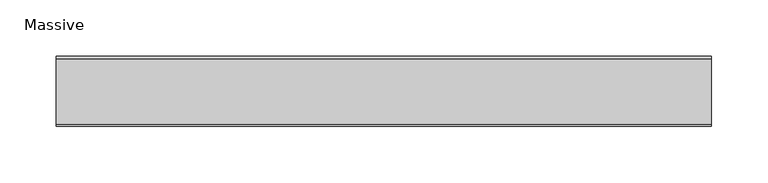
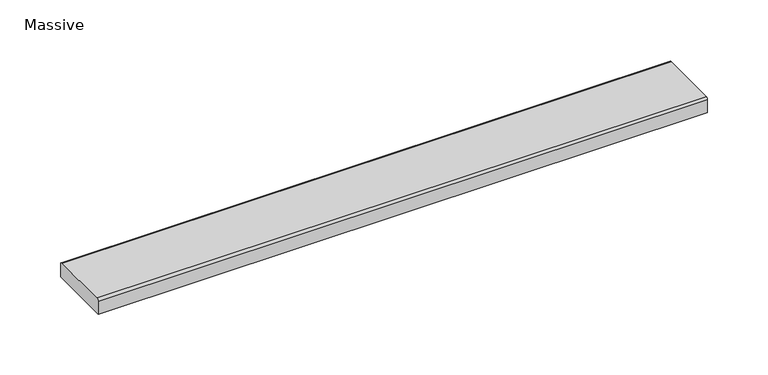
"""IFC4 building model written with IfcOpenShell, lengths in millimetres: sanitary terminal geometry, ZZZ_do not use_PF_ST_UN_grating for ShowerDrain C INT_ACO : Massive."""

import ifcopenshell
import ifcopenshell.guid

model = None  # the IFC model being written
_history = None  # IfcOwnerHistory: only IFC2X3 demands one
_inside = {}  # id of a spatial element -> (the spatial element, [elements in it])
_under = {}  # id of a project, library or spatial element -> (it, [spatial elements below it])
_declared = {}  # id of a project -> (the project, [libraries it declares])
_typed = {}  # id of a type object -> (the type object, [elements of that type])
_made_of = {}  # id of a material, layer set ... -> (it, [elements and type objects made of it])


def new_model(schema):
    """Start an empty IFC model of exactly this schema.

    Asked for "IFC4X3", IfcOpenShell would pick the latest addendum, in which some entities
    have other attributes; the version numbers below select the first issue.
    IFC2X3 requires an IfcOwnerHistory on every rooted entity: one is made here for all.
    """
    global model, _history
    if schema == "IFC4X3":
        model = ifcopenshell.file(schema_version=(4, 3, 0, 0))
    else:
        model = ifcopenshell.file(schema=schema)
    _inside.clear()
    _under.clear()
    _declared.clear()
    _typed.clear()
    _made_of.clear()
    _history = None
    if model.schema == "IFC2X3":
        org = make("IfcOrganization", Name="unknown")
        user = make(
            "IfcPersonAndOrganization",
            ThePerson=make("IfcPerson", FamilyName="unknown"),
            TheOrganization=org,
        )
        app = make(
            "IfcApplication",
            ApplicationDeveloper=org,
            Version="unknown",
            ApplicationFullName="unknown",
            ApplicationIdentifier="unknown",
        )
        _history = make(
            "IfcOwnerHistory",
            OwningUser=user,
            OwningApplication=app,
            ChangeAction="ADDED",
            CreationDate=0,
        )
    return model


def make(cls, **values):
    """One entity of the class cls with the attributes given. An attribute that is None is left unset."""
    return model.create_entity(
        cls, **{name: value for name, value in values.items() if value is not None}
    )


def rooted(cls, **values):
    """An entity with a GlobalId (a new one), such as an element, a storey or a relation."""
    return make(cls, GlobalId=ifcopenshell.guid.new(), OwnerHistory=_history, **values)


def si_unit(unit_type, name, prefix=None):
    """IfcSIUnit, for example si_unit("LENGTHUNIT", "METRE", prefix="MILLI")."""
    return make("IfcSIUnit", UnitType=unit_type, Prefix=prefix, Name=name)


def assignment(units):
    """IfcUnitAssignment: the units of a project."""
    return None if units is None else make("IfcUnitAssignment", Units=units)


def point(xyz):
    """IfcCartesianPoint."""
    return None if xyz is None else make("IfcCartesianPoint", Coordinates=xyz)


def direction(xyz):
    """IfcDirection."""
    return None if xyz is None else make("IfcDirection", DirectionRatios=xyz)


def frame(location, z_axis=None, x_axis=None):
    """IfcAxis2Placement3D, a coordinate frame: its origin and axes. An axis left out is left unset."""
    return make(
        "IfcAxis2Placement3D",
        Location=point(location),
        Axis=direction(z_axis),
        RefDirection=direction(x_axis),
    )


def frame_2d(location, x_axis=None):
    """IfcAxis2Placement2D, a coordinate frame in the plane: its origin and x axis."""
    return make(
        "IfcAxis2Placement2D", Location=point(location), RefDirection=direction(x_axis)
    )


def origin():
    """The frame at (0, 0, 0) with its axes left unset."""
    return frame((0.0, 0.0, 0.0))


def place(relative_to, where):
    """IfcLocalPlacement: puts the frame where relative to a parent placement (None: the world)."""
    return make(
        "IfcLocalPlacement", PlacementRelTo=relative_to, RelativePlacement=where
    )


def context(
    kind, dimensions, precision=None, world=None, true_north=None, identifier=None
):
    """IfcGeometricRepresentationContext, for example the 3D "Model" context."""
    return make(
        "IfcGeometricRepresentationContext",
        ContextIdentifier=identifier,
        ContextType=kind,
        CoordinateSpaceDimension=dimensions,
        Precision=precision,
        WorldCoordinateSystem=world,
        TrueNorth=true_north,
    )


def project(units=None, contexts=None):
    """IfcProject with its units and contexts."""
    return rooted(
        "IfcProject",
        Name="project",
        RepresentationContexts=contexts,
        UnitsInContext=assignment(units),
    )


def spatial(cls, under=None, at=None, **own):
    """A site, building, storey or space (cls), placed at a placement, below another one or the project."""
    s = rooted(cls, ObjectPlacement=at, **own)
    if under is not None:
        _under.setdefault(under.id(), (under, []))[1].append(s)
    return s


def polyline(points):
    """IfcPolyline through the points."""
    return make("IfcPolyline", Points=[point(p) for p in points])


def circle_curve(where, radius):
    """IfcCircle in the frame where."""
    return make("IfcCircle", Position=where, Radius=radius)


def trimmed(basis, trim1, trim2, sense, master):
    """IfcTrimmedCurve: the piece of a basis curve between two trims."""
    return make(
        "IfcTrimmedCurve",
        BasisCurve=basis,
        Trim1=trim1,
        Trim2=trim2,
        SenseAgreement=sense,
        MasterRepresentation=master,
    )


def segment(curve, same_sense, transition):
    """IfcCompositeCurveSegment."""
    return make(
        "IfcCompositeCurveSegment",
        Transition=transition,
        SameSense=same_sense,
        ParentCurve=curve,
    )


def composite_curve(segments, self_intersect=None):
    """IfcCompositeCurve: segments joined end to end."""
    return make("IfcCompositeCurve", Segments=segments, SelfIntersect=self_intersect)


def outline(outer, holes=None, kind="AREA"):
    """IfcArbitraryClosedProfileDef: a profile drawn as a closed curve; with holes, ...WithVoids."""
    if holes is None:
        return make("IfcArbitraryClosedProfileDef", ProfileType=kind, OuterCurve=outer)
    return make(
        "IfcArbitraryProfileDefWithVoids",
        ProfileType=kind,
        OuterCurve=outer,
        InnerCurves=holes,
    )


def extrude(swept, where, along, depth):
    """IfcExtrudedAreaSolid: the profile swept, set in the frame where, extruded along a direction by depth."""
    return make(
        "IfcExtrudedAreaSolid",
        SweptArea=swept,
        Position=where,
        ExtrudedDirection=direction(along),
        Depth=depth,
    )


def shape(context_of_items, identifier, shape_type, items):
    """IfcShapeRepresentation: the items that make up one representation, for example the "Body"."""
    return make(
        "IfcShapeRepresentation",
        ContextOfItems=context_of_items,
        RepresentationIdentifier=identifier,
        RepresentationType=shape_type,
        Items=items,
    )


def source(mapping_origin, context_of_items, identifier, shape_type, items):
    """IfcRepresentationMap: a shape defined once, which mapped items show again and again."""
    return make(
        "IfcRepresentationMap",
        MappingOrigin=mapping_origin,
        MappedRepresentation=shape(context_of_items, identifier, shape_type, items),
    )


def transform(
    local_origin,
    x_axis=None,
    y_axis=None,
    z_axis=None,
    scale=None,
    scale2=None,
    scale3=None,
    uniform=True,
):
    """IfcCartesianTransformationOperator3D, or its non-uniform kind. x_axis, y_axis, z_axis: its Axis1, 2, 3."""
    if uniform:
        return make(
            "IfcCartesianTransformationOperator3D",
            Axis1=direction(x_axis),
            Axis2=direction(y_axis),
            LocalOrigin=point(local_origin),
            Scale=scale,
            Axis3=direction(z_axis),
        )
    return make(
        "IfcCartesianTransformationOperator3DnonUniform",
        Axis1=direction(x_axis),
        Axis2=direction(y_axis),
        LocalOrigin=point(local_origin),
        Scale=scale,
        Axis3=direction(z_axis),
        Scale2=scale2,
        Scale3=scale3,
    )


def mapped(mapping_source, mapping_target):
    """IfcMappedItem: shows the shape of a source again, moved by a transform."""
    return make(
        "IfcMappedItem", MappingSource=mapping_source, MappingTarget=mapping_target
    )


def made_of(thing, what):
    """Note that an element or type object is made of a material, layer set ...; save() writes the relation."""
    if what is not None:
        _made_of.setdefault(what.id(), (what, []))[1].append(thing)
    return thing


def element(
    cls,
    number,
    at=None,
    inside=None,
    cuts=None,
    type_object=None,
    material=None,
    context=None,
    identifier="Body",
    shape_type=None,
    held_by="IfcProductDefinitionShape",
    body=None,
    shapes=None,
    **own,
):
    """One element of the class cls, such as IfcWall. Its Tag is "e" and its number.

    at: its placement. inside: the storey or other place that contains it. cuts: it is an
    opening in that element (IfcRelVoidsElement). A single representation is given by context,
    identifier, shape_type and body (its items); several are given by shapes. held_by: the class
    of the entity that holds the representations. save() writes the other relations.
    """
    e = rooted(cls, Tag="e%d" % number, ObjectPlacement=at, **own)
    if body is not None:
        shapes = [shape(context, identifier, shape_type, body)]
    if shapes is not None:
        e.Representation = make(held_by, Representations=shapes)
    if inside is not None:
        _inside.setdefault(inside.id(), (inside, []))[1].append(e)
    if cuts is not None:
        rooted(
            "IfcRelVoidsElement", RelatingBuildingElement=cuts, RelatedOpeningElement=e
        )
    if type_object is not None:
        _typed.setdefault(type_object.id(), (type_object, []))[1].append(e)
    return made_of(e, material)


def aggregate(whole, parts):
    """IfcRelAggregates: a whole, such as a stair, and the parts it consists of."""
    return rooted("IfcRelAggregates", RelatingObject=whole, RelatedObjects=parts)


def save(model, path):
    """Write the relations noted so far, then the file.

    IfcRelAggregates (storeys below a building ...), IfcRelContainedInSpatialStructure (elements
    in a storey), IfcRelDefinesByType, IfcRelAssociatesMaterial and IfcRelDeclares: one each for
    every whole, place, type object, material and project.
    """
    for whole, parts in _under.values():
        aggregate(whole, parts)
    for where, things in _inside.values():
        rooted(
            "IfcRelContainedInSpatialStructure",
            RelatedElements=things,
            RelatingStructure=where,
        )
    for kind, things in _typed.values():
        rooted("IfcRelDefinesByType", RelatedObjects=things, RelatingType=kind)
    for what, things in _made_of.values():
        rooted("IfcRelAssociatesMaterial", RelatedObjects=things, RelatingMaterial=what)
    for by, libraries in _declared.values():
        rooted("IfcRelDeclares", RelatingContext=by, RelatedDefinitions=libraries)
    model.write(path)


def massive_920ba84a(model_context):
    return source(origin(), model_context, "Body", "SweptSolid", [
        extrude(outline(composite_curve([segment(polyline([(31.0, -15.0), (-31.0, -15.0), (-31.0, -1.977849)]), True, "CONTINUOUS"), segment(trimmed(circle_curve(frame_2d((-29.022151, -1.977849)), 1.977849), [point((-31.0, -1.977849))], [point((-29.022151, 0.0))], False, "CARTESIAN"), True, "CONTINUOUS"), segment(polyline([(-29.022151, 0.0), (29.022151, 0.0)]), True, "CONTINUOUS"), segment(trimmed(circle_curve(frame_2d((29.022151, -1.977849)), 1.977849), [point((29.022151, 0.0))], [point((31.0, -1.977849))], False, "CARTESIAN"), True, "CONTINUOUS"), segment(polyline([(31.0, -1.977849), (31.0, -15.0)]), True, "CONTINUOUS")], self_intersect=False)), frame((-290.5, 0.0, 0.0), z_axis=(1.0, 0.0, 0.0), x_axis=(0.0, 1.0, 0.0)), (0.0, 0.0, 1.0), 581.0),
    ])


if __name__ == "__main__":
    model = new_model("IFC4")
    model_context = context("Model", 3, world=origin())
    ifc_project = project(units=[si_unit("LENGTHUNIT", "METRE", prefix="MILLI")], contexts=[model_context])
    site = spatial("IfcSite", under=ifc_project)
    building = spatial("IfcBuilding", under=site)
    placement = place(None, origin())
    massive_shape = massive_920ba84a(model_context)
    element("IfcSanitaryTerminal", 1, ObjectType="ZZZ_do not use_PF_ST_UN_grating for ShowerDrain C INT_ACO : Massive", at=placement, inside=building, context=model_context, shape_type="MappedRepresentation", body=[
        mapped(massive_shape, transform((0.0, 0.0, 0.0), x_axis=(1.0, 0.0, 0.0), y_axis=(0.0, 1.0, 0.0), z_axis=(0.0, 0.0, 1.0))),
    ])
    save(model, "model.ifc")
